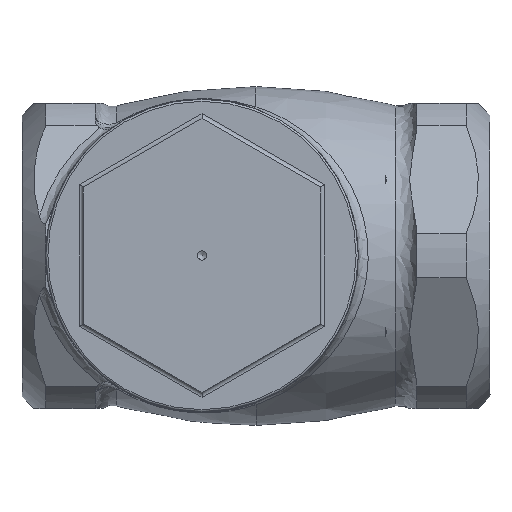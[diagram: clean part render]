
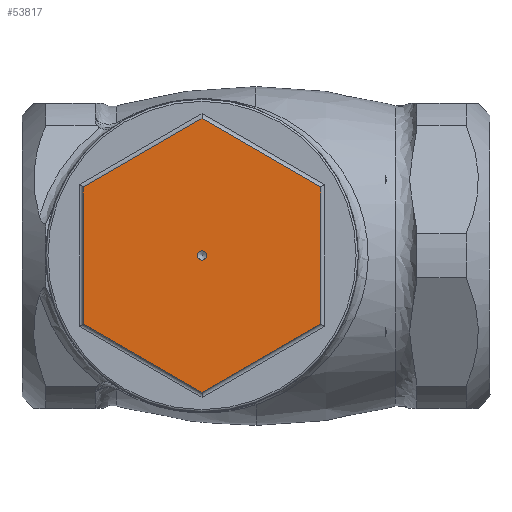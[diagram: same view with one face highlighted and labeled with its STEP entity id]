
A CAD part, top view. The second image highlights one B-rep face of the part: STEP entity #53817.
In plain terms, the highlighted planar face has unit normal (0, 0, 1).
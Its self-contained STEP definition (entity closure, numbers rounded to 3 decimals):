
#53751=CARTESIAN_POINT('',(-68.0,0.,75.9));
#53752=DIRECTION('',(0.0,0.0,1.0));
#53753=DIRECTION('',(1.0,0.0,0.0));
#53754=AXIS2_PLACEMENT_3D('',#53751,#53752,#53753);
#53755=PLANE('',#53754);
#53756=CARTESIAN_POINT('',(-40.,16.166,75.9));
#53757=VERTEX_POINT('',#53756);
#53758=CARTESIAN_POINT('',(-40.,-16.166,75.9));
#53759=VERTEX_POINT('',#53758);
#53760=CARTESIAN_POINT('',(-40.,16.166,75.9));
#53761=DIRECTION('',(0.0,-1.0,0.0));
#53762=VECTOR('',#53761,32.332);
#53763=LINE('',#53760,#53762);
#53764=EDGE_CURVE('',#53757,#53759,#53763,.T.);
#53765=ORIENTED_EDGE('',*,*,#53764,.F.);
#53766=CARTESIAN_POINT('',(-68.,32.332,75.9));
#53767=VERTEX_POINT('',#53766);
#53768=CARTESIAN_POINT('',(-68.,32.332,75.9));
#53769=DIRECTION('',(0.866,-0.5,0.0));
#53770=VECTOR('',#53769,32.332);
#53771=LINE('',#53768,#53770);
#53772=EDGE_CURVE('',#53767,#53757,#53771,.T.);
#53773=ORIENTED_EDGE('',*,*,#53772,.F.);
#53774=CARTESIAN_POINT('',(-96.,16.166,75.9));
#53775=VERTEX_POINT('',#53774);
#53776=CARTESIAN_POINT('',(-96.,16.166,75.9));
#53777=DIRECTION('',(0.866,0.5,0.0));
#53778=VECTOR('',#53777,32.332);
#53779=LINE('',#53776,#53778);
#53780=EDGE_CURVE('',#53775,#53767,#53779,.T.);
#53781=ORIENTED_EDGE('',*,*,#53780,.F.);
#53782=CARTESIAN_POINT('',(-96.,-16.166,75.9));
#53783=VERTEX_POINT('',#53782);
#53784=CARTESIAN_POINT('',(-96.,-16.166,75.9));
#53785=DIRECTION('',(0.0,1.0,0.0));
#53786=VECTOR('',#53785,32.332);
#53787=LINE('',#53784,#53786);
#53788=EDGE_CURVE('',#53783,#53775,#53787,.T.);
#53789=ORIENTED_EDGE('',*,*,#53788,.F.);
#53790=CARTESIAN_POINT('',(-68.,-32.332,75.9));
#53791=VERTEX_POINT('',#53790);
#53792=CARTESIAN_POINT('',(-68.,-32.332,75.9));
#53793=DIRECTION('',(-0.866,0.5,0.0));
#53794=VECTOR('',#53793,32.332);
#53795=LINE('',#53792,#53794);
#53796=EDGE_CURVE('',#53791,#53783,#53795,.T.);
#53797=ORIENTED_EDGE('',*,*,#53796,.F.);
#53798=CARTESIAN_POINT('',(-40.,-16.166,75.9));
#53799=DIRECTION('',(-0.866,-0.5,0.0));
#53800=VECTOR('',#53799,32.332);
#53801=LINE('',#53798,#53800);
#53802=EDGE_CURVE('',#53759,#53791,#53801,.T.);
#53803=ORIENTED_EDGE('',*,*,#53802,.F.);
#53804=EDGE_LOOP('',(#53765,#53773,#53781,#53789,#53797,#53803));
#53805=FACE_OUTER_BOUND('',#53804,.T.);
#53806=CARTESIAN_POINT('',(-66.9,0.0,75.9));
#53807=VERTEX_POINT('',#53806);
#53808=CARTESIAN_POINT('',(-68.0,0.0,75.9));
#53809=DIRECTION('',(0.0,0.0,-1.0));
#53810=DIRECTION('',(1.0,0.0,0.0));
#53811=AXIS2_PLACEMENT_3D('',#53808,#53809,#53810);
#53812=CIRCLE('',#53811,1.1);
#53813=EDGE_CURVE('',#53807,#53807,#53812,.T.);
#53814=ORIENTED_EDGE('',*,*,#53813,.T.);
#53815=EDGE_LOOP('',(#53814));
#53816=FACE_BOUND('',#53815,.T.);
#53817=ADVANCED_FACE('',(#53805,#53816),#53755,.T.);
